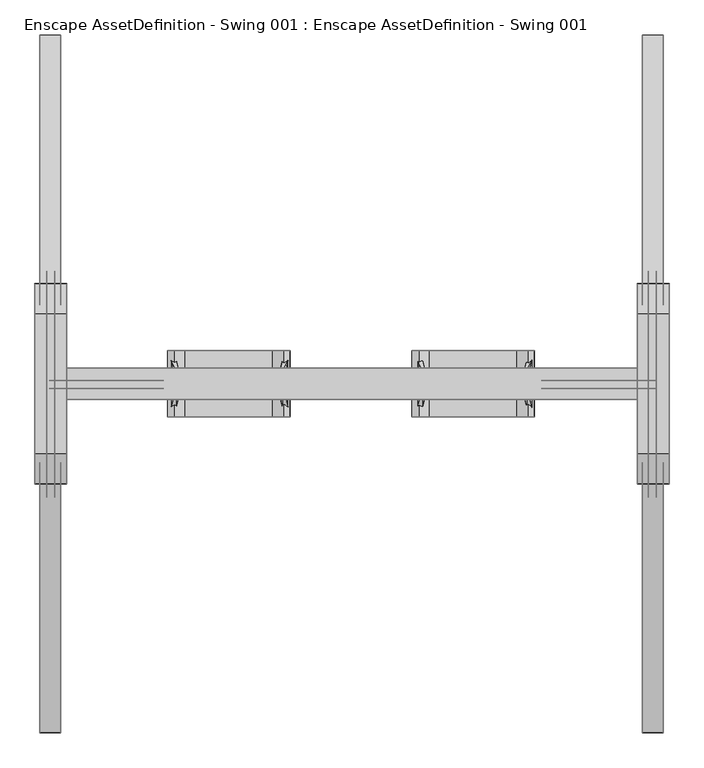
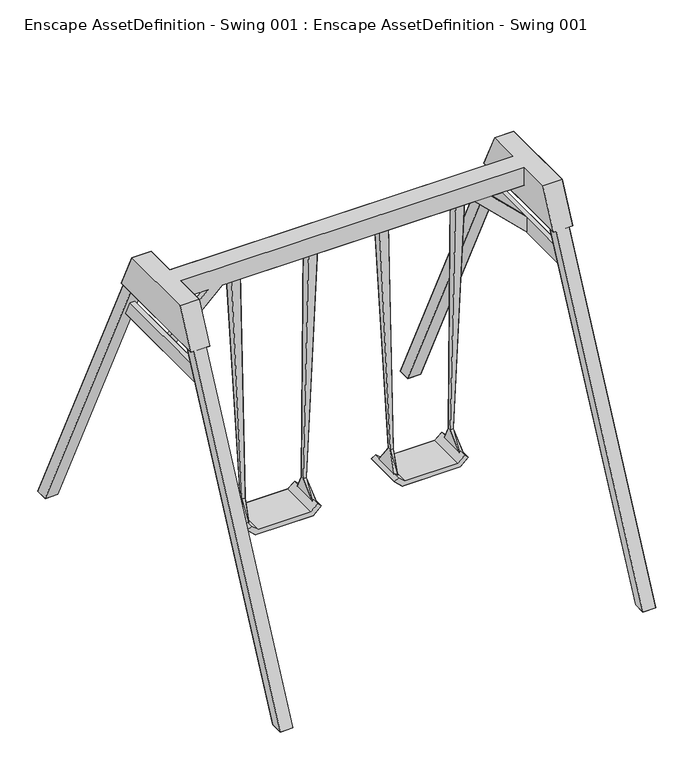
"""IFC4 building model written with IfcOpenShell, lengths in millimetres: geographic element geometry, Enscape AssetDefinition - Swing 001 : Enscape AssetDefinition - Swing 001."""

from ifc_helpers import new_model, si_unit, origin, place, context, project, spatial, triangles, source, transform, mapped, element, save


def enscape_assetdefinition_swing_001_enscape_assetdefinition_1559533b(model_context):
    return source(origin(), model_context, "Body", "Tessellation", [
        triangles([(1080.0000664, -59.9989994, 2079.9999287), (-1200.0000818, -263.6449903, 2199.9991447), (-1080.0000664, -59.9999986, 2199.9991447), (-1080.0000664, -263.6449903, 2199.9991447), (-1200.0000818, -378.457023, 1959.9991138), (-1080.0000664, -59.9999986, 2079.9989113), (-1080.0000664, -378.457023, 1959.9991138), (-1080.0000664, 262.755001, 2199.9991447), (-1200.0000818, 262.755001, 2199.9991447), (-1200.0000818, 378.312991, 1959.9991138), (-1080.0000664, 378.3139721, 1959.9991138), (-1080.0000664, 59.9999986, 2199.9991447), (-1080.0000664, 59.9999986, 2079.9989113), (1080.0000664, -378.4560056, 1959.9999859), (1080.0000664, 60.0010024, 2079.9999287), (1080.0000664, 60.0010024, 2200.0000168), (1200.0000818, 262.755982, 2200.0000168), (1080.0000664, 262.755982, 2200.0000168), (1200.0000818, 378.3139721, 1959.9991138), (1080.0000664, 378.3139721, 1959.9991138), (1200.0000818, -263.6449903, 2200.0000168), (1200.0000818, -378.4560056, 1959.9999859), (1080.0000664, -59.9989994, 2200.0000168), (1080.0000664, -263.6449903, 2200.0000168), (1151.3789944, -430.6649918, 1725.0640354), (1120.7369694, 426.7349991, 1725.0640354), (1151.3800844, 426.7349991, 1725.0640354), (1151.3800844, 426.7349991, 1825.0638908), (1120.7360247, -430.6649918, 1725.0640354), (1120.7360247, -430.6649918, 1825.0638908), (1120.7369694, 426.7349991, 1825.0638908), (1151.3789944, -430.6649918, 1825.0638908), (1098.31094, -1319.9999519, 0.0), (1098.31094, -1240.0000385, 0.0), (1098.3099953, -297.8320205, 1959.9991138), (1178.310054, -297.8320205, 1959.9991138), (1178.3109987, -1240.0000385, 0.0), (1178.3109987, -1319.9999519, 0.0), (1178.310054, -377.8319884, 1959.9991138), (1098.3099953, -377.8319884, 1959.9991138), (1178.3109987, 1240.0000385, 0.0), (1178.310054, 377.8319884, 1959.9991138), (1178.310054, 297.8320205, 1959.9991138), (1098.3099953, 297.8320205, 1959.9991138), (1098.3099953, 1240.0000385, 0.0), (1098.3099953, 1319.9999519, 0.0), (1098.3099953, 377.8319884, 1959.9991138), (1178.3109987, 1319.9999519, 0.0), (718.7229904, 20.9400009, 2108.1208866), (718.7229904, -35.6610001, 2108.2999454), (661.8019735, -89.4000028, 449.6180137), (662.9300297, -10.5670001, 576.0189829), (642.8590164, -10.5710004, 574.7269833), (662.1720091, 20.9469999, 2110.4788822), (662.9350439, 9.4330004, 576.0699972), (662.1720091, -35.654001, 2110.6591038), (661.7870035, 90.7680061, 449.7820298), (642.863958, 9.4290001, 574.7780339), (681.4980097, 90.6480007, 453.1700134), (681.5129797, -89.5199991, 453.0059973), (265.7819964, -10.5670001, 576.0189829), (183.5609977, 20.9389994, 2108.1208866), (265.7770004, 9.4330004, 576.0699972), (266.9109973, -89.4000028, 449.6180137), (183.5609977, -35.6610001, 2108.2999454), (240.1129964, -35.654001, 2110.6591038), (247.2139983, 90.6480007, 453.1700134), (247.1999911, -89.5199991, 453.0059973), (285.8479955, 9.4290001, 574.7780339), (240.1129964, 20.9469999, 2110.4788822), (285.8529915, -10.5710004, 574.7269833), (266.9250044, 90.7680061, 449.7820298), (-261.0119933, -10.5670001, 576.0179655), (-205.2189962, 20.9389994, 2108.1200146), (-262.1400131, -89.4000028, 449.6180137), (-205.2189962, -35.6610001, 2108.2999454), (-261.7700139, 20.9469999, 2110.4788822), (-261.7700139, -35.654001, 2110.6579411), (-281.0829884, -10.5710004, 574.7269833), (-262.1550013, 90.7680061, 449.7820298), (-281.0780105, 9.4290001, 574.7780339), (-242.4439951, 90.6480007, 453.1700134), (-242.4290069, -89.5209983, 453.0059973), (-261.0070154, 9.4330004, 576.0689798), (-748.5280025, 20.9389994, 2108.1200146), (-666.3080212, -10.5670001, 576.0179655), (-665.1790203, -89.4000028, 449.6180137), (-684.8899538, -89.5209983, 453.0059973), (-748.5280025, -35.6610001, 2108.2999454), (-666.3119453, 9.4330004, 576.0689798), (-691.9760038, 20.9469999, 2110.4788822), (-684.8749838, 90.6480007, 453.1700134), (-691.9760038, -35.654001, 2110.6579411), (-646.2359905, -10.5710004, 574.7269833), (-646.2410048, 9.4290001, 574.7780339), (-665.1639776, 90.7680061, 449.7820298), (-1125.1349567, 426.7349991, 1725.0640354), (-1125.1349567, 426.7349991, 1825.0638908), (-1125.1349567, -430.6649918, 1725.0640354), (-1155.7780718, -430.6649918, 1725.0640354), (-1155.7780718, -430.6649918, 1825.0638908), (-1155.7769817, 426.7349991, 1725.0640354), (-1155.7769817, 426.7349991, 1825.0638908), (-1125.1349567, -430.6649918, 1825.0638908), (-1101.6880594, -1319.9999519, 0.0), (-1181.6879728, -1319.9999519, 0.0), (-1181.6889902, -377.8319884, 1959.9991138), (-1181.6889902, -297.8320205, 1959.9991138), (-1181.6889902, -1240.0000385, 0.0), (-1101.6890041, -297.8320205, 1959.9991138), (-1101.6890041, -1240.0000385, 0.0), (-1101.6890041, -377.8319884, 1959.9991138), (-1126.4970102, 13.3570006, 1725.6920494), (-713.5980125, 13.3560003, 2121.8919937), (-771.9889978, 13.3570006, 2150.9990833), (-1145.7359522, 13.3570006, 1798.9609783), (-771.9889978, -17.2860009, 2150.9990833), (-1145.7359522, -17.2860009, 1798.9609783), (-713.5980125, -17.2860009, 2121.8919937), (-1126.4970102, -17.2860009, 1725.6920494), (-1181.6889902, 1319.9999519, 0.0), (-1101.6890041, 297.8320205, 1959.9991138), (-1101.6890041, 1240.0000385, 0.0), (-1181.6889902, 1240.0000385, 0.0), (-1181.6889902, 297.8320205, 1959.9991138), (-1181.6889902, 377.8319884, 1959.9991138), (-1101.6890041, 377.8319884, 1959.9991138), (-1101.6890041, 1319.9999519, 0.0), (276.4349799, 125.000001, 400.2490067), (639.4780455, 125.000001, 400.2490067), (639.4780455, -125.000001, 400.2490067), (292.6639857, 125.000001, 431.3910012), (276.4349799, -125.000001, 400.2490067), (252.8730097, -125.000001, 465.5869881), (226.1400121, -125.000001, 447.0149749), (252.8730097, 125.000001, 465.5869881), (226.1400121, 125.000001, 447.0149749), (292.6639857, -125.000001, 431.3910012), (623.1980072, -125.000001, 431.8549991), (667.6769783, -125.000001, 468.5910198), (623.1969898, 125.000001, 431.8560164), (667.6769783, 125.000001, 468.5910198), (689.7719959, 125.000001, 447.0149749), (689.7719959, -125.000001, 447.0149749), (-284.6260134, 125.000001, 400.2490067), (-671.2309765, 125.000001, 465.5869881), (-647.6690426, 125.000001, 400.2490067), (-647.6690426, -125.000001, 400.2490067), (-697.9640104, -125.000001, 447.0149749), (-671.2309765, -125.000001, 465.5869881), (-697.9640104, 125.000001, 447.0149749), (-300.9069782, 125.000001, 431.8560164), (-631.4400187, 125.000001, 431.3910012), (-631.4400187, -125.000001, 431.3910012), (-300.9059971, -125.000001, 431.8549991), (-256.4260087, -125.000001, 468.5910198), (-234.330991, -125.000001, 447.0149749), (-284.6260134, -125.000001, 400.2490067), (-256.4260087, 125.000001, 468.5910198), (-234.330991, 125.000001, 447.0149749), (1148.6010389, -17.2860009, 1799.1609661), (716.0279514, -17.2860009, 2121.8350204), (1122.8599503, -17.2860009, 1726.4329926), (775.2329859, -17.2860009, 2162.862022), (1148.6010389, 13.3560003, 1799.1609661), (1122.8599503, 13.3560003, 1726.4329926), (775.2329859, 13.3570006, 2162.862022), (716.0279514, 13.3570006, 2121.8350204)], [[162, 168, 166], [167, 165, 166], [166, 168, 167], [161, 165, 167], [167, 164, 161], [166, 163, 162], [164, 162, 163], [163, 161, 164], [145, 160, 157], [157, 160, 159], [160, 145, 152], [152, 159, 160], [159, 156, 157], [156, 159, 152], [158, 157, 156], [157, 158, 145], [148, 158, 155], [156, 155, 158], [152, 155, 156], [155, 154, 148], [153, 152, 145], [153, 154, 155], [155, 152, 153], [150, 154, 153], [153, 146, 150], [150, 146, 151], [151, 149, 150], [154, 150, 149], [149, 148, 154], [145, 147, 153], [147, 151, 146], [146, 153, 147], [158, 148, 147], [147, 145, 158], [149, 151, 147], [147, 148, 149], [130, 143, 144], [144, 143, 142], [143, 130, 141], [141, 142, 143], [142, 140, 144], [140, 142, 141], [131, 144, 140], [144, 131, 130], [133, 131, 139], [140, 139, 131], [141, 139, 140], [139, 138, 133], [132, 141, 130], [132, 138, 139], [139, 141, 132], [134, 138, 132], [132, 136, 134], [134, 136, 137], [137, 135, 134], [138, 134, 135], [135, 133, 138], [130, 129, 132], [129, 137, 136], [136, 132, 129], [131, 133, 129], [129, 130, 131], [135, 137, 129], [129, 133, 135], [127, 128, 121], [121, 126, 127], [126, 121, 124], [124, 125, 126], [125, 124, 123], [123, 122, 125], [127, 122, 123], [123, 128, 127], [121, 128, 123], [123, 124, 121], [114, 119, 120], [117, 118, 120], [120, 119, 117], [116, 118, 117], [117, 115, 116], [120, 113, 114], [115, 114, 113], [113, 116, 115], [107, 106, 105], [105, 112, 107], [112, 105, 111], [111, 110, 112], [110, 111, 109], [109, 108, 110], [107, 108, 109], [109, 106, 107], [105, 106, 109], [109, 111, 105], [104, 98, 103], [103, 101, 104], [101, 103, 102], [102, 100, 101], [98, 104, 99], [99, 97, 98], [102, 97, 99], [99, 100, 102], [95, 96, 92], [94, 87, 96], [96, 95, 94], [93, 94, 95], [95, 91, 93], [92, 90, 95], [90, 92, 88], [91, 95, 90], [93, 91, 85], [90, 85, 91], [85, 89, 93], [94, 93, 89], [86, 88, 87], [87, 94, 86], [88, 86, 90], [89, 86, 94], [85, 90, 86], [86, 89, 85], [83, 82, 84], [81, 84, 82], [82, 80, 81], [84, 81, 77], [78, 77, 81], [79, 81, 80], [80, 75, 79], [81, 79, 78], [76, 78, 79], [74, 77, 78], [78, 76, 74], [77, 74, 84], [73, 79, 75], [75, 83, 73], [84, 73, 83], [79, 73, 76], [74, 76, 73], [73, 84, 74], [69, 72, 67], [71, 64, 72], [72, 69, 71], [66, 71, 69], [69, 70, 66], [67, 63, 69], [63, 67, 68], [70, 69, 63], [66, 70, 62], [63, 62, 70], [62, 65, 66], [71, 66, 65], [61, 68, 64], [64, 71, 61], [68, 61, 63], [65, 61, 71], [62, 63, 61], [61, 65, 62], [60, 59, 55], [58, 55, 59], [59, 57, 58], [55, 58, 54], [56, 54, 58], [53, 58, 57], [57, 51, 53], [58, 53, 56], [50, 56, 53], [49, 54, 56], [56, 50, 49], [54, 49, 55], [52, 53, 51], [51, 60, 52], [55, 52, 60], [53, 52, 50], [49, 50, 52], [52, 55, 49], [42, 48, 46], [46, 47, 42], [47, 46, 45], [45, 44, 47], [44, 45, 41], [41, 43, 44], [42, 43, 41], [41, 48, 42], [46, 48, 41], [41, 45, 46], [40, 33, 38], [38, 39, 40], [39, 38, 37], [37, 36, 39], [36, 37, 34], [34, 35, 36], [40, 35, 34], [34, 33, 40], [38, 33, 34], [34, 37, 38], [32, 28, 31], [31, 30, 32], [30, 31, 26], [26, 29, 30], [28, 32, 25], [25, 27, 28], [26, 27, 25], [25, 29, 26], [14, 24, 23], [21, 23, 24], [21, 24, 14], [14, 22, 21], [17, 21, 22], [22, 19, 17], [23, 21, 17], [22, 14, 20], [20, 19, 22], [17, 19, 20], [20, 18, 17], [17, 16, 23], [16, 17, 18], [16, 18, 20], [23, 16, 12], [20, 15, 16], [12, 16, 15], [20, 14, 1], [1, 15, 20], [23, 1, 14], [15, 13, 12], [13, 15, 1], [1, 6, 13], [11, 13, 6], [12, 13, 11], [11, 8, 12], [5, 10, 11], [9, 10, 5], [12, 8, 9], [11, 10, 9], [9, 8, 11], [5, 2, 9], [6, 7, 11], [11, 7, 5], [2, 5, 7], [7, 4, 2], [3, 12, 9], [9, 2, 3], [2, 4, 3], [12, 3, 23], [3, 4, 7], [7, 6, 3], [1, 23, 3], [3, 6, 1]], closed=False),
    ])


if __name__ == "__main__":
    model = new_model("IFC4")
    model_context = context("Model", 3, world=origin())
    ifc_project = project(units=[si_unit("LENGTHUNIT", "METRE", prefix="MILLI")], contexts=[model_context])
    site = spatial("IfcSite", under=ifc_project)
    building = spatial("IfcBuilding", under=site)
    placement = place(None, origin())
    enscape_assetdefinition_swing_001_enscape_assetdefinition_shape = enscape_assetdefinition_swing_001_enscape_assetdefinition_1559533b(model_context)
    element("IfcGeographicElement", 1, ObjectType="Enscape AssetDefinition - Swing 001 : Enscape AssetDefinition - Swing 001", at=placement, inside=building, context=model_context, shape_type="MappedRepresentation", body=[
        mapped(enscape_assetdefinition_swing_001_enscape_assetdefinition_shape, transform((0.0, 0.0, 0.0), x_axis=(1.0, 0.0, 0.0), y_axis=(0.0, 1.0, 0.0), z_axis=(0.0, 0.0, 1.0))),
    ])
    save(model, "model.ifc")
